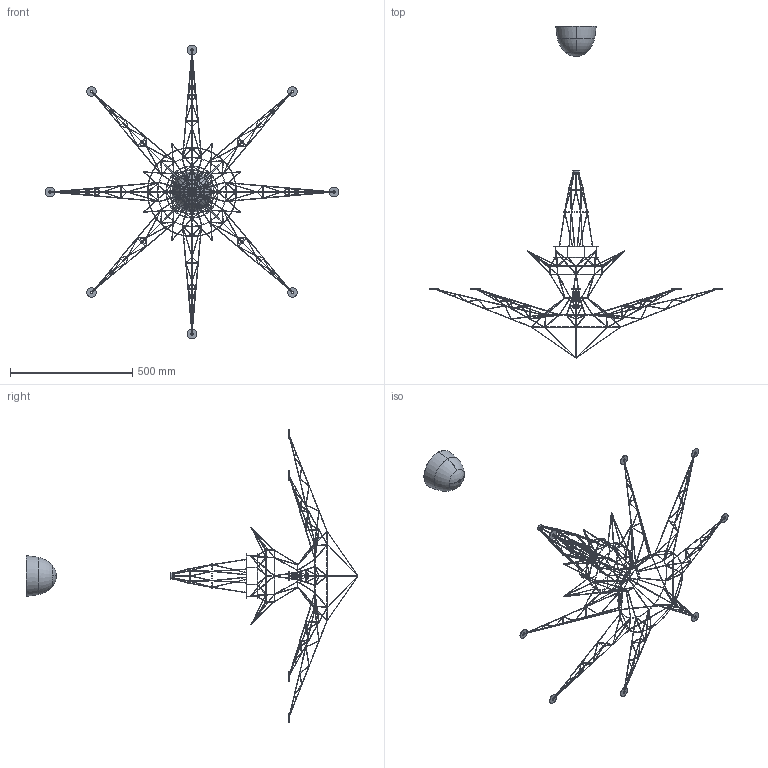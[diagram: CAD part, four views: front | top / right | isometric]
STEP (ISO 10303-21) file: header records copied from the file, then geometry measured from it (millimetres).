
FILE_DESCRIPTION (( 'STEP AP214' ), '1' );
FILE_NAME ('064_STD_S_PL_3D.STEP', '2021-05-24T14:31:06', ( '' ), ( '' ), 'SwSTEP 2.0', 'SolidWorks 2021', '' );
FILE_SCHEMA (( 'AUTOMOTIVE_DESIGN' ));
Length unit declared in the file: millimetre
Products named in the file (1): 064_STD_S_PL_3D
Bounding box: 1200 x 1355.46 x 1200 mm (x, y, z)
Volume: 208162.1 mm3; surface area: 394514.4 mm2
Topology: 9 solids, 9 shells, 1468 faces, 5582 edges, 3548 vertices
Faces by surface type: cylinder 791, torus 526, plane 143, sphere 4, cone 4
Entity records: 84199 total; most frequent: CARTESIAN_POINT 26589, ORIENTED_EDGE 11164, DIRECTION 6975, EDGE_CURVE 5582, VERTEX_POINT 3548, AXIS2_PLACEMENT_3D 3026, B_SPLINE_CURVE_WITH_KNOTS 1686, CIRCLE 1557
